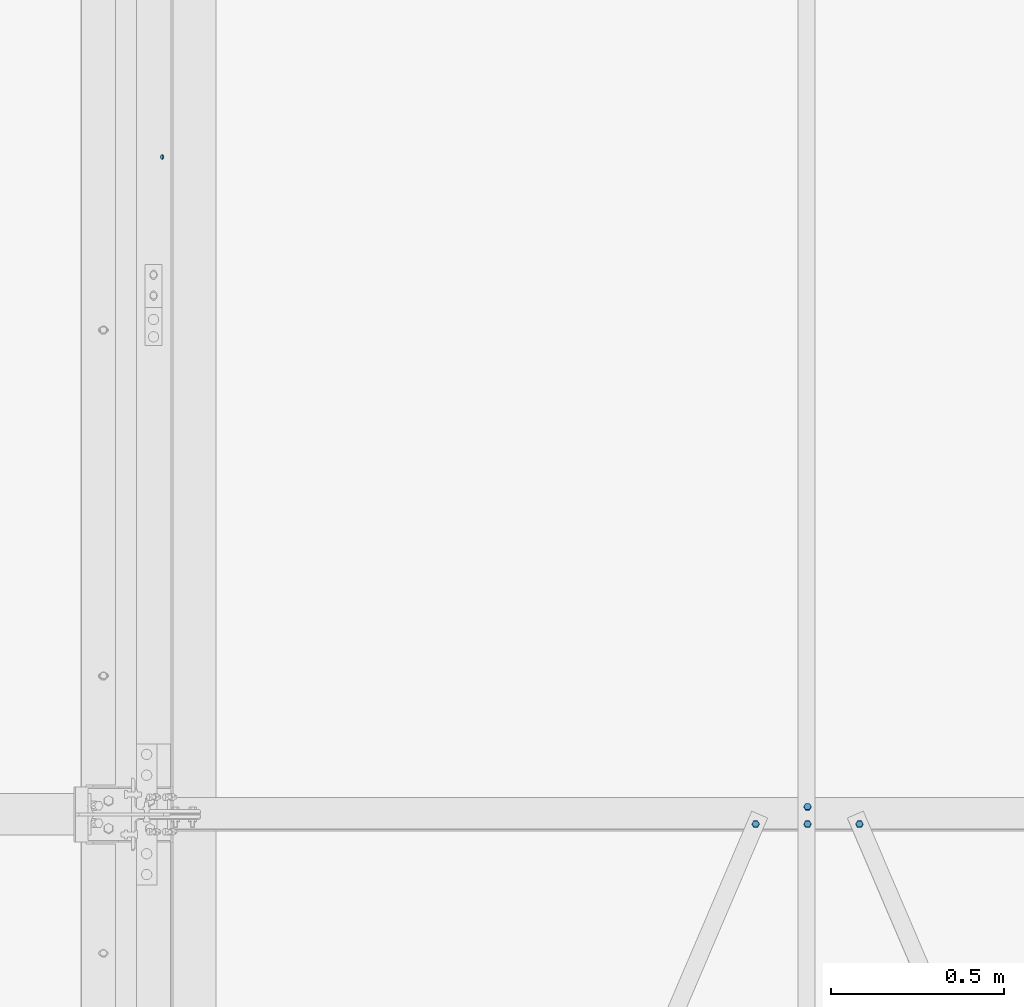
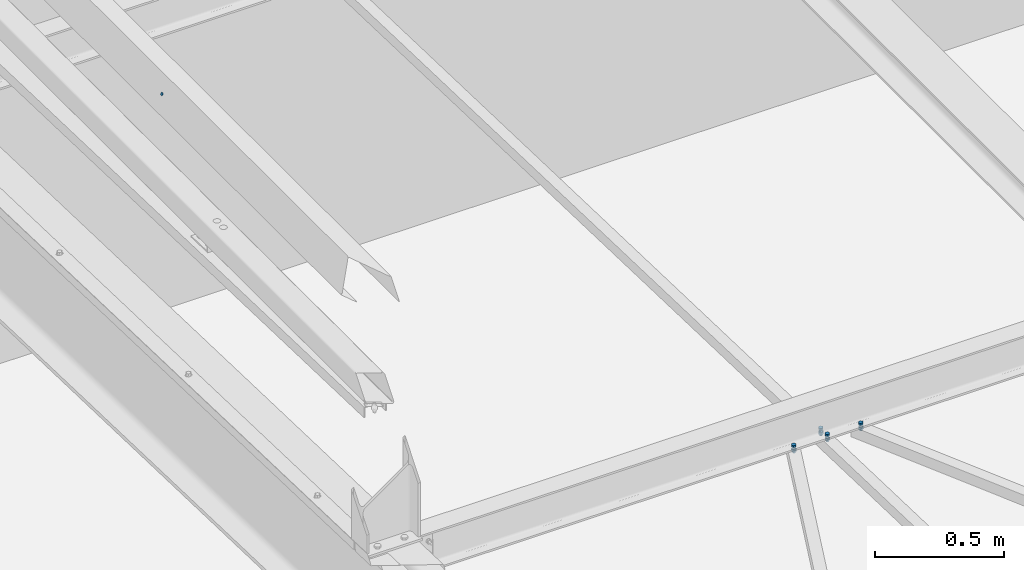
# One storey, part 263 of 362: 4 mechanical fasteners.
"""IFC2X3 building model written with IfcOpenShell, lengths in millimetres."""

from ifc_helpers import new_model, si_unit, frame, origin_with_axes, origin_2d_with_axis, place, context, subcontext, project, spatial, polyline, circle, outline, extrude, source, transform, mapped, material, type_object, element, save


model = new_model("IFC2X3")

# Units and contexts
model_context = context("Model", 3, precision=1e-05, world=origin_with_axes())
body_context = subcontext(model_context, "Body", "Model", "MODEL_VIEW")
ifc_project = project(units=[si_unit("LENGTHUNIT", "METRE", prefix="MILLI"), si_unit("AREAUNIT", "SQUARE_METRE"), si_unit("VOLUMEUNIT", "CUBIC_METRE"), si_unit("MASSUNIT", "GRAM", prefix="KILO"), si_unit("TIMEUNIT", "SECOND"), si_unit("PLANEANGLEUNIT", "RADIAN"), si_unit("SOLIDANGLEUNIT", "STERADIAN"), si_unit("THERMODYNAMICTEMPERATUREUNIT", "DEGREE_CELSIUS"), si_unit("LUMINOUSINTENSITYUNIT", "LUMEN")], contexts=[model_context])

# Site, building, storey
site_placement = place(None, origin_with_axes())
site = spatial("IfcSite", under=ifc_project, at=site_placement, Name="Undefined", CompositionType="ELEMENT")
building_placement = place(site_placement, origin_with_axes())
building = spatial("IfcBuilding", under=site, at=building_placement, Name="Undefined", CompositionType="ELEMENT")
storey_placement = place(building_placement, origin_with_axes())
storey = spatial("IfcBuildingStorey", under=building, at=storey_placement, Name="Undefined", CompositionType="ELEMENT", Elevation=0.0)

# Mechanical fasteners
ifc_material_1 = material(Name="6.8")
mechanical_fastener_type = type_object("IfcMechanicalFastenerType", Name="Bolt assembly")
shared_shape_1 = source(origin_with_axes(), body_context, "Body", "SweptSolid", [
    extrude(circle(Radius=7.0, at=origin_2d_with_axis()), frame((0.0, 0.0, 0.0), z_axis=(0.0, 1.0, 0.0), x_axis=(1.0, 0.0, 0.0)), (0.0, 0.0, 1.0), 3.1),
])
mechanical_fastener_1_placement = place(storey_placement, frame((19643.5016489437, 5700.0, 8857.28871371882), z_axis=(0.0, -1.0, 0.0), x_axis=(-0.463528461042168, 0.0, -0.886082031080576)))
element("IfcMechanicalFastener", 1, at=mechanical_fastener_1_placement, inside=storey, type_object=mechanical_fastener_type, material=ifc_material_1, Name="Bolt assembly", NominalDiameter=12.0, NominalLength=3.0, context=body_context, shape_type="MappedRepresentation", body=[
    mapped(shared_shape_1, transform((0.0, 0.0, 0.0))),
])
ifc_material_2 = material(Name="8.8-SB-ZINGUE")
shared_shape_2 = source(origin_with_axes(), body_context, "Body", "SweptSolid", [
    extrude(circle(Radius=7.0, at=origin_2d_with_axis()), frame((0.0, -27.8948087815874, 0.0), z_axis=(0.0, 1.0, 0.0), x_axis=(1.0, 0.0, 0.0)), (0.0, 0.0, 1.0), 8.0),
    extrude(circle(Radius=7.0, at=origin_2d_with_axis()), frame((0.0, -20.0965527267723, 0.0), z_axis=(0.0, 1.0, 0.0), x_axis=(1.0, 0.0, 0.0)), (0.0, 0.0, 1.0), 5.1),
    extrude(outline(polyline([(10.39230484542, 0.0), (5.19615242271, 9.00000000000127), (-5.19615242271, 9.00000000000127), (-10.39230484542, 0.0), (-5.19615242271, -9.00000000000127), (5.19615242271, -9.00000000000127), (10.39230484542, 0.0)])), frame((0.0, -35.9148087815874, 0.0), z_axis=(0.0, 1.0, 0.0), x_axis=(1.0, 0.0, 0.0)), (0.0, 0.0, 1.0), 7.92),
    extrude(circle(Radius=6.0, at=origin_2d_with_axis()), frame((0.0, -27.9948087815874, 0.0), z_axis=(0.0, 1.0, 0.0), x_axis=(1.0, 0.0, 0.0)), (0.0, 0.0, 1.0), 30.0),
    extrude(outline(polyline([(11.5008173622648, 0.0), (5.7504086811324, 9.96000000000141), (-5.7504086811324, 9.96000000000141), (-11.5008173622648, 0.0), (-5.7504086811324, -9.96000000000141), (5.7504086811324, -9.96000000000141), (11.5008173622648, 0.0)])), frame((0.0, -14.9965527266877, 0.0), z_axis=(0.0, 1.0, 0.0), x_axis=(1.0, 0.0, 0.0)), (0.0, 0.0, 1.0), 7.92),
])
for number, where, z_axis, x_axis, name in (
    (2, (21360.0000126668, 3771.55726486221, 7731.38047020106), (0.0, -0.999506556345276, 0.031410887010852), (-1.0, 0.0, 0.0), "Bolt assembly"),
    (3, (21660.0000126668, 3771.55726486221, 7731.38047020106), (0.0, -0.999506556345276, 0.031410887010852), (-1.0, 0.0, 0.0), "Bolt assembly"),
):
    element("IfcMechanicalFastener", number, at=place(storey_placement, frame(where, z_axis=z_axis, x_axis=x_axis)), inside=storey, type_object=mechanical_fastener_type, material=ifc_material_2, Name=name, NominalDiameter=12.0, NominalLength=30.0, context=body_context, shape_type="MappedRepresentation", body=[
        mapped(shared_shape_2, transform((0.0, 0.0, 0.0))),
    ])
mechanical_fastener_2_placement = place(storey_placement, frame((21510.0000126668, 3796.54492859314, 7730.59518975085), z_axis=(0.0, -0.999506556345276, 0.031410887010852), x_axis=(-1.0, 0.0, 0.0)))
element("IfcMechanicalFastener", 4, at=mechanical_fastener_2_placement, inside=storey, type_object=mechanical_fastener_type, material=ifc_material_2, Name="Bolt assembly", NominalDiameter=12.0, NominalLength=30.0, context=body_context, shape_type="MappedRepresentation", body=[
    mapped(shared_shape_2, transform((0.0, 0.0, -25.0))),
    mapped(shared_shape_2, transform((0.0, 0.0, 25.0))),
])

save(model, "model.ifc")
